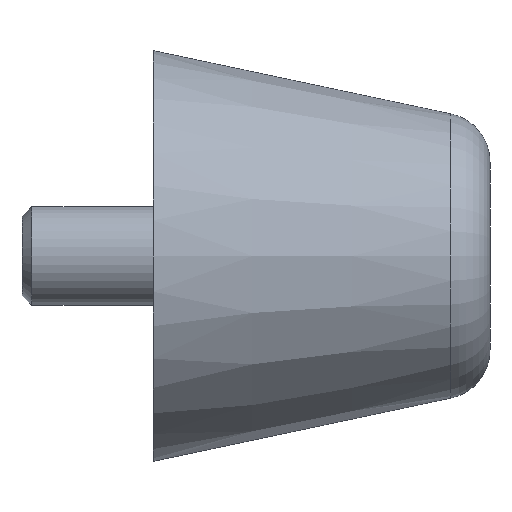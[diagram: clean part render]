
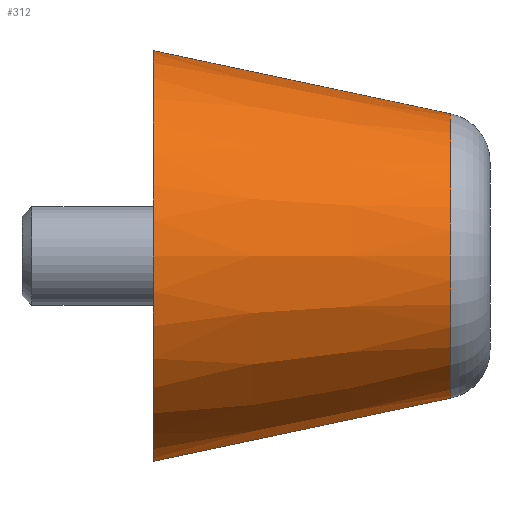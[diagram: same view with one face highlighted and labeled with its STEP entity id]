
A CAD part, left-side view. The second image highlights one B-rep face of the part: STEP entity #312.
In plain terms, the highlighted conical face has half-angle 11.98 degrees and reference radius 8.15 mm.
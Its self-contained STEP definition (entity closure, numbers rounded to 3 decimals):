
#2 = DIRECTION ( 'NONE',  ( 0., 1., 0. ) ) ;
#19 = DIRECTION ( 'NONE',  ( 0., 1., 0. ) ) ;
#27 = VECTOR ( 'NONE', #408, 1000. ) ;
#40 = EDGE_CURVE ( 'NONE', #417, #305, #47, .T. ) ;
#47 = LINE ( 'NONE', #83, #335 ) ;
#52 = CIRCLE ( 'NONE', #461, 8.654 ) ;
#83 = CARTESIAN_POINT ( 'NONE',  ( 0., 0., -8.15 ) ) ;
#131 = CARTESIAN_POINT ( 'NONE',  ( 0., 2.377, -8.654 ) ) ;
#141 = CARTESIAN_POINT ( 'NONE',  ( 0., 2.377, 0. ) ) ;
#150 = CARTESIAN_POINT ( 'NONE',  ( 0., 20.5, 0. ) ) ;
#156 = LINE ( 'NONE', #240, #27 ) ;
#161 = CARTESIAN_POINT ( 'NONE',  ( 0., 20.5, -12.5 ) ) ;
#170 = CARTESIAN_POINT ( 'NONE',  ( 0., 2.377, 8.654 ) ) ;
#193 = DIRECTION ( 'NONE',  ( 0., 0., 1. ) ) ;
#207 = CARTESIAN_POINT ( 'NONE',  ( 0., 0., 0. ) ) ;
#240 = CARTESIAN_POINT ( 'NONE',  ( 0., 0., 8.15 ) ) ;
#245 = ORIENTED_EDGE ( 'NONE', *, *, #357, .T. ) ;
#253 = DIRECTION ( 'NONE',  ( 0., 0.978, -0.208 ) ) ;
#291 = EDGE_CURVE ( 'NONE', #462, #551, #156, .T. ) ;
#305 = VERTEX_POINT ( 'NONE', #161 ) ;
#310 = CARTESIAN_POINT ( 'NONE',  ( 0., 20.5, 12.5 ) ) ;
#312 = ADVANCED_FACE ( 'NONE', ( #332 ), #354, .T. ) ;
#325 = DIRECTION ( 'NONE',  ( 0., -1., 0. ) ) ;
#332 = FACE_OUTER_BOUND ( 'NONE', #489, .T. ) ;
#335 = VECTOR ( 'NONE', #253, 1000. ) ;
#350 = ORIENTED_EDGE ( 'NONE', *, *, #40, .F. ) ;
#354 = CONICAL_SURFACE ( 'NONE', #437, 8.15, 0.209 ) ;
#357 = EDGE_CURVE ( 'NONE', #551, #305, #431, .T. ) ;
#389 = ORIENTED_EDGE ( 'NONE', *, *, #291, .T. ) ;
#397 = DIRECTION ( 'NONE',  ( 0., 0., -1. ) ) ;
#408 = DIRECTION ( 'NONE',  ( 0., 0.978, 0.208 ) ) ;
#417 = VERTEX_POINT ( 'NONE', #131 ) ;
#431 = CIRCLE ( 'NONE', #476, 12.5 ) ;
#437 = AXIS2_PLACEMENT_3D ( 'NONE', #207, #19, #193 ) ;
#461 = AXIS2_PLACEMENT_3D ( 'NONE', #141, #2, #397 ) ;
#462 = VERTEX_POINT ( 'NONE', #170 ) ;
#476 = AXIS2_PLACEMENT_3D ( 'NONE', #150, #325, #530 ) ;
#484 = EDGE_CURVE ( 'NONE', #417, #462, #52, .T. ) ;
#489 = EDGE_LOOP ( 'NONE', ( #350, #540, #389, #245 ) ) ;
#530 = DIRECTION ( 'NONE',  ( 0., 0., -1. ) ) ;
#540 = ORIENTED_EDGE ( 'NONE', *, *, #484, .T. ) ;
#551 = VERTEX_POINT ( 'NONE', #310 ) ;
